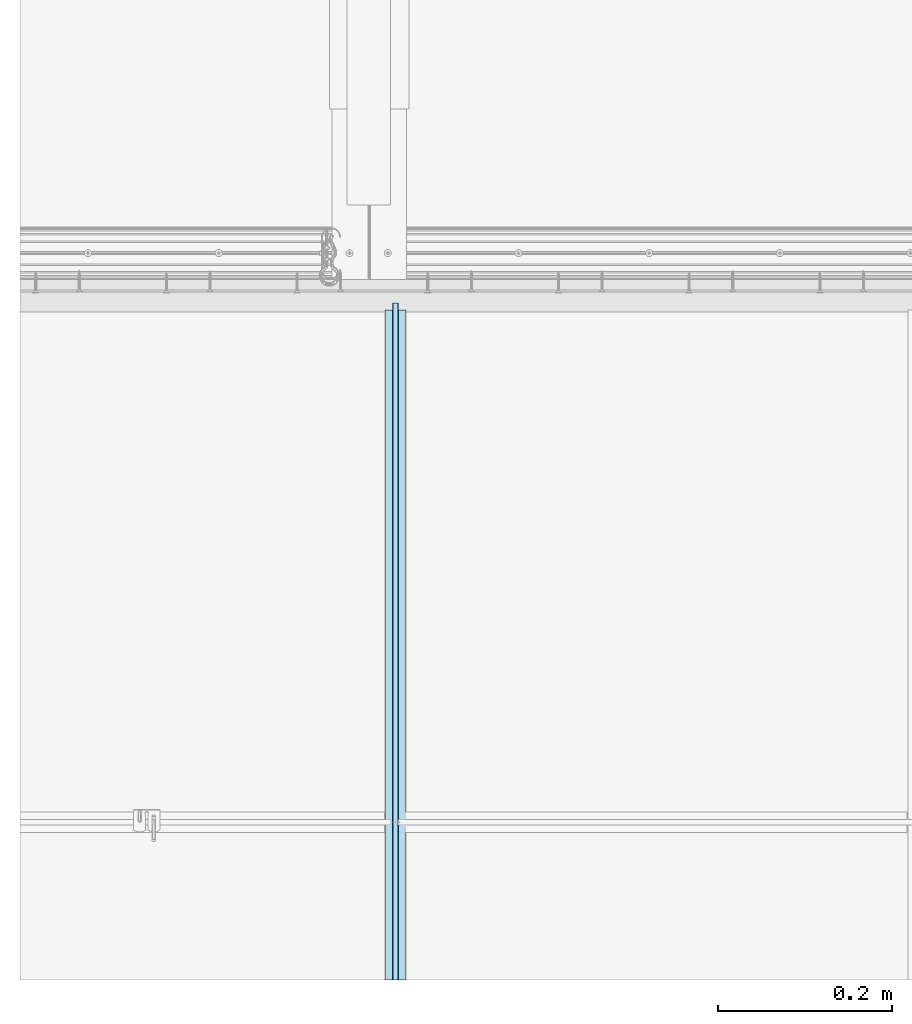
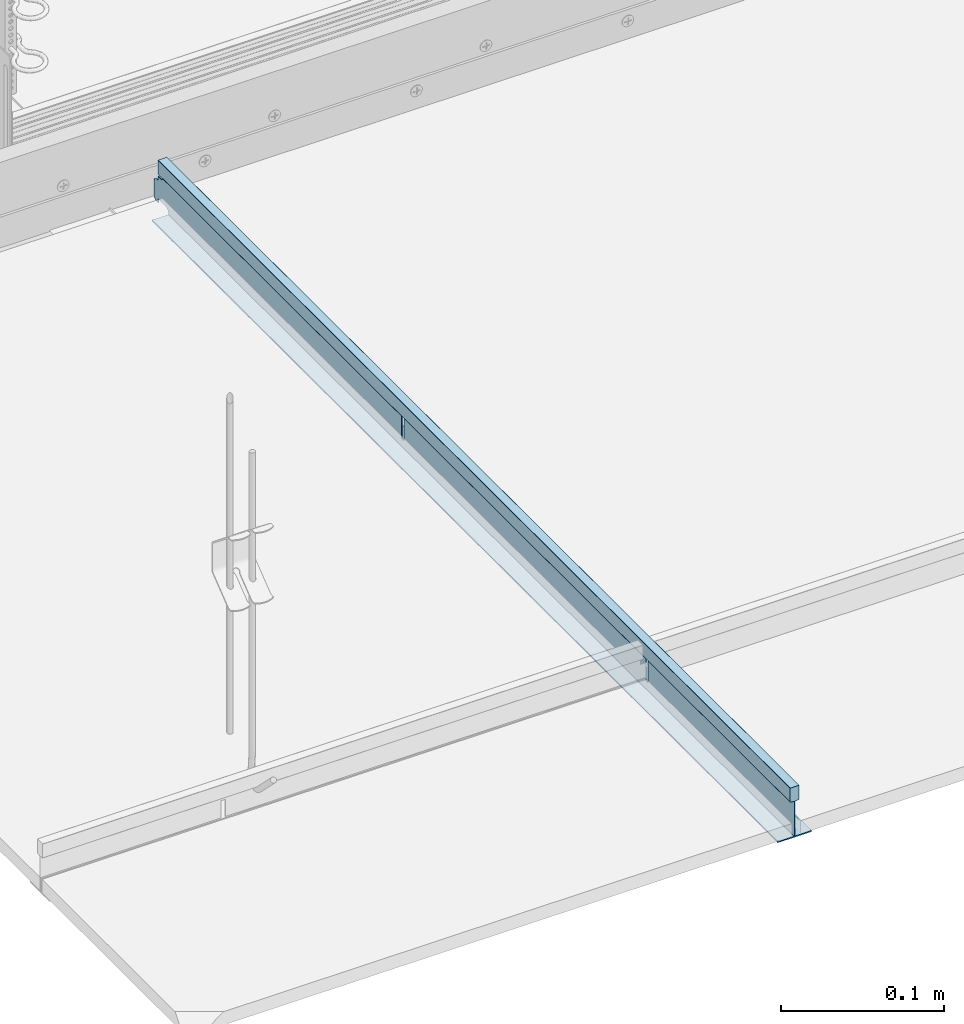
# One storey, part 6 of 79: 1 slab.
"""IFC2X3 building model written with IfcOpenShell, lengths in millimetres."""

from ifc_helpers import new_model, entity, si_unit, converted_unit, direction, frame, origin, origin_with_axes, place, context, project, spatial, faceted_brep, element, save


model = new_model("IFC2X3")

# Units and contexts
model_context = context("Model", 3, precision=1e-05, world=origin(), true_north=direction((0.0, 1.0, 0.0)))
ifc_project = project(units=[si_unit("LENGTHUNIT", "METRE", prefix="MILLI"), si_unit("AREAUNIT", "SQUARE_METRE"), si_unit("VOLUMEUNIT", "CUBIC_METRE"), converted_unit("PLANEANGLEUNIT", "DEGREE", entity("IfcPlaneAngleMeasure", 0.01745), si_unit("PLANEANGLEUNIT", "RADIAN"), dimensions=[0, 0, 0, 0, 0, 0, 0]), si_unit("SOLIDANGLEUNIT", "STERADIAN"), si_unit("MASSUNIT", "GRAM"), si_unit("TIMEUNIT", "SECOND"), si_unit("THERMODYNAMICTEMPERATUREUNIT", "DEGREE_CELSIUS"), si_unit("LUMINOUSINTENSITYUNIT", "LUMEN")], contexts=[model_context])

# Site, building, storey
site_placement = place(None, origin_with_axes())
site = spatial("IfcSite", under=ifc_project, at=site_placement, Name="Default Site", CompositionType="ELEMENT")
building_placement = place(site_placement, origin_with_axes())
building = spatial("IfcBuilding", under=site, at=building_placement, Name="Default Building", CompositionType="ELEMENT")
storey_placement = place(building_placement, origin_with_axes())
storey = spatial("IfcBuildingStorey", under=building, at=storey_placement, Name="Default Building Storey", CompositionType="ELEMENT", Elevation=0.0)

# Slab
slab_placement = place(storey_placement, frame((2544.035723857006, 837.6353148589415, 980.285217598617), z_axis=(0.0, 0.0, 1.0), x_axis=(1.0, 0.0, 0.0)))
element("IfcSlab", 1, at=slab_placement, inside=storey, Name="Profil poprzeczny RIGIPS T24", context=model_context, shape_type="Brep", body=[
    faceted_brep([(23.90000004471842, 769.2103810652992, 3.609557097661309e-13), (24.0000000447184, 769.2103810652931, 0.1000000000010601), (23.99510569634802, 769.2103810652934, 0.06909830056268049), (23.98090174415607, 769.2103810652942, 0.04122147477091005), (23.95877856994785, 769.2103810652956, 0.01909830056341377), (23.93090174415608, 769.2103810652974, 0.004894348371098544), (24.0000000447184, 769.2103810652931, 0.9000000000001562), (23.90000004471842, 769.2103810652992, 1.000000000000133), (23.93090174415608, 769.2103810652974, 0.9951056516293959), (23.95877856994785, 769.2103810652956, 0.9809016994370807), (23.98090174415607, 769.2103810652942, 0.9587785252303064), (23.99510569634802, 769.2103810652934, 0.930901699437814), (4.471844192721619e-08, 769.2103810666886, 0.1000000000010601), (0.1000000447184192, 769.2103810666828, 3.609557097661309e-13), (0.06909834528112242, 769.2103810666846, 0.004894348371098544), (0.04122151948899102, 769.2103810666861, 0.01909830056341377), (0.01909834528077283, 769.2103810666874, 0.04122147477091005), (0.004894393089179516, 769.2103810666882, 0.06909830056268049), (0.1000000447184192, 769.2103810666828, 1.000000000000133), (4.471844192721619e-08, 769.2103810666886, 0.9000000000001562), (0.004894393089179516, 769.2103810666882, 0.930901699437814), (0.01909834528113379, 769.2103810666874, 0.9587785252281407), (0.04122151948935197, 769.2103810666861, 0.9809016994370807), (0.06909834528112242, 769.2103810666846, 0.9951056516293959), (12.25000001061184, 182.5356075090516, 6.830574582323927), (12.25000001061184, 182.5356075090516, 23.83057458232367), (11.75000001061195, 182.5356075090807, 23.83057458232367), (11.75000001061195, 182.5356075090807, 6.830574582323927), (12.25000001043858, 179.5356075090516, 6.830574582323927), (11.75000001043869, 179.5356075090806, 6.830574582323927), (12.25000001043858, 179.5356075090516, 23.83057458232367), (11.75000001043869, 179.5356075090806, 23.83057458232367), (12.2500000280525, 482.5356075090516, 23.83057458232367), (12.25000002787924, 479.5356075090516, 23.83057458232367), (11.75000002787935, 479.5356075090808, 23.83057458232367), (11.75000002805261, 482.5356075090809, 23.83057458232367), (12.25000002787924, 479.5356075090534, 6.830574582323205), (11.75000002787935, 479.5356075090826, 6.830574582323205), (12.2500000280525, 482.5356075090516, 6.830574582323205), (11.75000002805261, 482.5356075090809, 6.830574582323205), (12.25000004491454, 772.5846432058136, 4.956101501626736), (11.75000004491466, 772.5846432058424, 4.956101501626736), (11.75000004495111, 773.2103810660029, 5.005348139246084), (12.250000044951, 773.210381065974, 5.005348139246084), (12.25000004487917, 771.9743130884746, 4.809574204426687), (11.75000004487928, 771.9743130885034, 4.809574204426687), (12.2500000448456, 771.3944190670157, 4.569374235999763), (11.75000004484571, 771.3944190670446, 4.569374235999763), (12.2500000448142, 770.8592400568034, 4.24141611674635), (11.75000004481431, 770.8592400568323, 4.24141611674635), (12.25000004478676, 770.3819539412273, 3.833775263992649), (11.75000004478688, 770.3819539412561, 3.833775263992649), (12.25000004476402, 769.9743130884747, 3.356489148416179), (11.75000004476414, 769.9743130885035, 3.356489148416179), (12.25000004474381, 769.6463549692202, 2.821310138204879), (11.75000004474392, 769.646354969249, 2.821310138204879), (12.25000004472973, 769.406155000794, 2.241416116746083), (11.75000004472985, 769.4061550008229, 2.241416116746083), (12.25000004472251, 769.2596277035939, 1.631085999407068), (11.75000004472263, 769.2596277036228, 1.631085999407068), (12.25000004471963, 769.2103810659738, 1.005348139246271), (11.75000004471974, 769.2103810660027, 1.005348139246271), (12.25000004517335, 777.0356075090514, 5.005348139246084), (12.25000004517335, 777.0356075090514, 4.83057458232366), (12.25000004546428, 782.0356075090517, 4.83057458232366), (12.25000004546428, 782.0356075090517, 1.830574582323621), (12.25000004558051, 784.0356075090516, 1.830574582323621), (12.25000004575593, 787.0356075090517, 3.830574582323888), (12.25000004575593, 787.0356075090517, 16.83057458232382), (12.25000004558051, 784.0356075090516, 18.83057458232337), (12.25000004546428, 782.0356075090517, 18.83057458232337), (12.25000004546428, 782.0356075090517, 21.8305745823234), (12.25000004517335, 777.0356075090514, 21.8305745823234), (12.2531831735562, 777.0356075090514, 26.83057458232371), (12.25216747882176, 595.5836991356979, 26.83060440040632), (12.25114981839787, 595.1491790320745, 26.83056726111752), (12.25217031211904, 594.9777323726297, 26.83063494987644), (12.25217203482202, 591.9068147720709, 26.8306476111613), (12.2531831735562, 0.0, 26.83057458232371), (12.25000000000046, 0.0, 0.8000000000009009), (12.25000004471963, 769.2103810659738, 0.800000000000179), (23.00000004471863, 769.2103810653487, 0.800000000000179), (23.00000004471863, 769.2103810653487, 0.5000000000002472), (1.000000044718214, 769.2103810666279, 0.5000000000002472), (1.000000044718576, 769.2103810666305, 0.800000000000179), (11.75000004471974, 769.2103810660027, 0.800000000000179), (11.75000004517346, 777.0356075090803, 5.005348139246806), (11.75000000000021, 0.0, 0.80000000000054), (11.75000000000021, 0.0, 6.830574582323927), (11.75000004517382, 777.0356075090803, 26.83057458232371), (11.75000004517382, 777.0356075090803, 21.8305745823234), (11.75000004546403, 782.0356075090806, 21.8305745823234), (11.75000004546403, 782.0356075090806, 18.83057458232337), (11.75000004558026, 784.0356075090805, 18.83057458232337), (11.75000004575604, 787.0356075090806, 16.83057458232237), (11.75000004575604, 787.0356075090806, 3.830574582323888), (11.75000004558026, 784.0356075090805, 1.830574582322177), (11.75000004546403, 782.0356075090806, 1.830574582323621), (11.75000004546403, 782.0356075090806, 4.83057458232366), (11.75000004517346, 777.0356075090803, 4.83057458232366), (1.000000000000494, 0.0, 0.5000000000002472), (1.000000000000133, 0.0, 0.80000000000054), (0.9999999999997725, 0.0, 1.000000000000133), (0.09999999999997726, 0.0, 1.000000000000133), (0.06909830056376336, 0.0, 0.995105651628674), (0.04122147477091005, 0.0, 0.9809016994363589), (0.01909830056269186, 0.0, 0.9587785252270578), (0.004894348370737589, 0.0, 0.9309016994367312), (3.609557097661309e-13, 0.0, 0.8999999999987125), (0.0, 0.0, 0.0999999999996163), (0.004894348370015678, 0.0, 0.06909830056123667), (0.01909830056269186, 0.0, 0.04122147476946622), (0.04122147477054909, 0.0, 0.01909830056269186), (0.06909830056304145, 0.0, 0.004894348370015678), (0.1000000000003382, 0.0, 0.0), (23.89999999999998, 0.0, 3.609557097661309e-13), (23.93090169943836, 0.0, 0.004894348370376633), (23.95877852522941, 0.0, 0.0190983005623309), (23.98090169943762, 0.0, 0.04122147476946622), (23.99510565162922, 0.0, 0.06909830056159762), (23.99999999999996, 0.0, 0.1000000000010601), (23.99999999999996, 0.0, 0.9000000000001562), (23.9951056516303, 0.0, 0.9309016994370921), (23.98090169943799, 0.0, 0.9587785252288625), (23.95877852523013, 0.0, 0.9809016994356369), (23.930901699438, 0.0, 0.995105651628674), (23.90000000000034, 0.0, 1.000000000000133), (23.00000000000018, 0.0, 1.000000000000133), (23.00000000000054, 0.0, 0.8000000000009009), (23.00000000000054, 0.0, 0.5000000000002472), (1.000000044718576, 769.2103810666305, 1.000000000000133), (23.00000004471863, 769.2103810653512, 1.000000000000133), (11.74999999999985, 0.0, 26.83057458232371), (12.2531831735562, 0.0, 26.85872058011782), (12.25197263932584, 777.0356075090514, 26.85859504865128), (12.26556593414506, 0.0, 26.90878863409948), (12.28078940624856, 0.0, 26.93719435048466), (12.29739600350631, 0.0, 26.95984956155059), (12.3170128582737, 0.0, 26.97995470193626), (12.33925300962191, 0.0, 26.99711317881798), (12.36367774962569, 0.0, 27.01098652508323), (12.38980527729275, 0.0, 27.02130107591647), (12.41712020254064, 0.0, 27.02785336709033), (15.08287979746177, 0.0, 27.47214663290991), (15.11019472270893, 0.0, 27.4786989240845), (15.13632225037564, 0.0, 27.48901347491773), (15.16074699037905, 0.0, 27.50288682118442), (15.18298714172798, 0.0, 27.52004529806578), (15.20260399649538, 0.0, 27.54015043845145), (15.21921059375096, 0.0, 27.56280564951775), (15.23247935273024, 0.0, 27.58756403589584), (15.24214853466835, 0.0, 27.61393721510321), (15.24802740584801, 0.0, 27.6414049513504), (15.25000000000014, 0.0, 27.66942541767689), (15.2500000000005, 0.0, 37.80000000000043), (15.24753766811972, 0.0, 37.83128689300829), (15.24021130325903, 0.0, 37.86180339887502), (15.22820130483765, 0.0, 37.89079809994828), (15.21180339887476, 0.0, 37.91755705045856), (15.1914213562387, 0.0, 37.94142135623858), (15.16755705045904, 0.0, 37.9618033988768), (15.14079809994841, 0.0, 37.97820130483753), (15.11180339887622, 0.0, 37.99021130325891), (15.08128689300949, 0.0, 37.9975376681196), (15.05000000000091, 0.0, 38.00000000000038), (8.950000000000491, 0.0, 38.00000000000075), (8.918713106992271, 0.0, 37.9975376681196), (8.888196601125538, 0.0, 37.99021130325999), (8.859201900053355, 0.0, 37.97820130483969), (8.832442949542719, 0.0, 37.96180339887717), (8.808578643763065, 0.0, 37.94142135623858), (8.78819660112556, 0.0, 37.91755705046), (8.771798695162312, 0.0, 37.89079809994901), (8.75978869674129, 0.0, 37.86180339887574), (8.752462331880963, 0.0, 37.83128689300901), (8.750000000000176, 0.0, 37.80000000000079), (8.749999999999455, 0.0, 27.66942541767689), (8.751972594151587, 0.0, 27.64140495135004), (8.757851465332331, 0.0, 27.61393721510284), (8.767520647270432, 0.0, 27.58756403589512), (8.78078940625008, 0.0, 27.56280564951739), (8.797396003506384, 0.0, 27.54015043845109), (8.817012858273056, 0.0, 27.52004529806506), (8.839253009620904, 0.0, 27.50288682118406), (8.86367774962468, 0.0, 27.48901347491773), (8.889805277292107, 0.0, 27.4786989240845), (8.91712020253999, 0.0, 27.47214663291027), (11.58287979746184, 0.0, 27.02785336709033), (11.61019472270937, 0.0, 27.0213010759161), (11.63632225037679, 0.0, 27.01098652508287), (11.66074699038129, 0.0, 26.99711317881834), (11.68298714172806, 0.0, 26.97995470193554), (11.70260399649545, 0.0, 26.95984956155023), (11.71921059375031, 0.0, 26.93719435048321), (11.7324793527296, 0.0, 26.91243596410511), (11.7421485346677, 0.0, 26.88606278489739), (11.74802740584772, 0.0, 26.85859504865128), (15.08287984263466, 777.0356075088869, 27.47214663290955), (15.25000004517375, 777.0356075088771, 27.66942541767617), (15.24802745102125, 777.0356075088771, 27.64140495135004), (15.24214857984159, 777.0356075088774, 27.61393721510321), (15.23247939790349, 777.0356075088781, 27.58756403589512), (15.21921063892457, 777.0356075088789, 27.56280564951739), (15.2026040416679, 777.0356075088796, 27.54015043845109), (15.18298718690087, 777.0356075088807, 27.52004529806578), (15.16074703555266, 777.0356075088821, 27.5028868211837), (15.13632229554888, 777.0356075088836, 27.48901347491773), (15.11019476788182, 777.035607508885, 27.4786989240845), (8.917120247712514, 777.0356075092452, 27.47214663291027), (8.750000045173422, 777.035607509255, 27.66942541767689), (12.4171202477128, 777.0356075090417, 27.02785336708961), (12.38980532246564, 777.0356075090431, 27.0213010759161), (12.36367779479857, 777.0356075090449, 27.01098652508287), (12.33925305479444, 777.035607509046, 26.99711317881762), (12.31701290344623, 777.0356075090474, 26.97995470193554), (12.29739604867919, 777.0356075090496, 26.95984956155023), (12.28078945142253, 777.0356075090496, 26.93719435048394), (12.2675206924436, 777.0356075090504, 26.9124359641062), (11.66074703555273, 777.0356075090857, 26.99711317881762), (11.6363222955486, 777.0356075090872, 27.01098652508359), (11.61019476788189, 777.0356075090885, 27.02130107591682), (11.58287984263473, 777.03560750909, 27.02785336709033), (8.889805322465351, 777.0356075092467, 27.4786989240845), (8.863677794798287, 777.0356075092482, 27.48901347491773), (8.83925305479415, 777.0356075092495, 27.5028868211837), (8.817012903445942, 777.035607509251, 27.52004529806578), (8.797396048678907, 777.0356075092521, 27.54015043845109), (8.780789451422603, 777.0356075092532, 27.56280564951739), (8.767520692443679, 777.035607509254, 27.58756403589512), (8.757851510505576, 777.0356075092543, 27.61393721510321), (8.751972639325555, 777.0356075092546, 27.64140495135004), (11.70260404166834, 777.0356075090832, 26.95984956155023), (11.68298718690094, 777.0356075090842, 26.97995470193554), (12.2578515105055, 777.035607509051, 26.88606278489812), (12.25282061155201, 557.6175692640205, 26.85860023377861), (12.26508841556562, 743.9273872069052, 26.91267923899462), (12.25819111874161, 411.4434548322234, 26.88602829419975), (15.2475377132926, 777.0356075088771, 37.83128689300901), (15.25000004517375, 777.0356075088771, 37.79999999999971), (15.24021134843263, 777.0356075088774, 37.86180339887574), (8.77179874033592, 777.0356075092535, 37.89079809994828), (8.788196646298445, 777.0356075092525, 37.91755705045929), (15.11180344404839, 777.035607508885, 37.99021130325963), (15.14079814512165, 777.0356075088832, 37.97820130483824), (8.832442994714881, 777.03560750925, 37.96180339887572), (8.859201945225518, 777.0356075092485, 37.97820130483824), (15.16755709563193, 777.0356075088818, 37.96180339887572), (8.750000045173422, 777.035607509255, 37.80000000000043), (8.75246237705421, 777.0356075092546, 37.83128689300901), (8.950000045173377, 777.035607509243, 38.00000000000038), (15.05000004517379, 777.0356075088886, 37.99999999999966), (15.19142140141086, 777.0356075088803, 37.94142135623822), (15.21180344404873, 777.0356075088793, 37.91755705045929), (8.759788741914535, 777.0356075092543, 37.86180339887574), (11.71921063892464, 777.0356075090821, 26.93719435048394), (11.73247939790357, 777.0356075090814, 26.9124359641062), (11.74802745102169, 777.0356075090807, 26.85859504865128), (11.74214857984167, 777.035607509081, 26.88606278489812), (15.22820135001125, 777.0356075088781, 37.89079809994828), (8.80857868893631, 777.0356075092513, 37.94142135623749), (8.918713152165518, 777.0356075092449, 37.9975376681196), (8.888196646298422, 777.0356075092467, 37.99021130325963), (15.08128693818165, 777.0356075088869, 37.9975376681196)], [[[0, 1, 2, 3, 4, 5]], [[6, 7, 8, 9, 10, 11]], [[12, 13, 14, 15, 16, 17]], [[18, 19, 20, 21, 22, 23]], [[24, 25, 26, 27]], [[28, 24, 27, 29]], [[30, 28, 29, 31]], [[25, 30, 31, 26]], [[32, 33, 34, 35]], [[33, 36, 37, 34]], [[36, 38, 39, 37]], [[38, 32, 35, 39]], [[40, 41, 42, 43]], [[41, 40, 44, 45]], [[45, 44, 46, 47]], [[47, 46, 48, 49]], [[49, 48, 50, 51]], [[51, 50, 52, 53]], [[53, 52, 54, 55]], [[55, 54, 56, 57]], [[57, 56, 58, 59]], [[59, 58, 60, 61]], [[40, 43, 62, 63, 64, 65, 66, 67, 68, 69, 70, 71, 72, 73, 74, 75, 76, 77, 78, 79, 80, 60, 58, 56, 54, 52, 50, 48, 46, 44], [33, 32, 38, 36], [25, 24, 28, 30]], [[60, 80, 81, 82, 83, 84, 85, 61]], [[62, 43, 42, 86]], [[85, 87, 88, 29, 27, 26, 34, 37, 39, 35, 89, 90, 91, 92, 93, 94, 95, 96, 97, 98, 99, 86, 42, 41, 45, 47, 49, 51, 53, 55, 57, 59, 61]], [[100, 101, 102, 103, 104, 105, 106, 107, 108, 109, 110, 111, 112, 113, 114, 115, 116, 117, 118, 119, 120, 121, 122, 123, 124, 125, 126, 127, 128, 129]], [[13, 114, 113, 14]], [[18, 130, 84, 83, 82, 81, 131, 7, 6, 1, 0, 13, 12, 19]], [[5, 116, 115, 0]], [[63, 62, 86, 99]], [[64, 63, 99, 98]], [[65, 64, 98, 97]], [[72, 71, 91, 90]], [[71, 70, 92, 91]], [[70, 69, 93, 92]], [[69, 68, 94, 93]], [[68, 67, 95, 94]], [[67, 66, 96, 95]], [[66, 65, 97, 96]], [[80, 79, 128, 81]], [[79, 78, 132, 88, 87, 101, 100, 129, 128]], [[89, 73, 74, 75, 76, 77, 78, 132]], [[90, 89, 73, 72]], [[78, 77, 133]], [[74, 73, 134]], [[78, 133, 135, 136, 137, 138, 139, 140, 141, 142, 143, 144, 145, 146, 147, 148, 149, 150, 151, 152, 153, 154, 155, 156, 157, 158, 159, 160, 161, 162, 163, 164, 165, 166, 167, 168, 169, 170, 171, 172, 173, 174, 175, 176, 177, 178, 179, 180, 181, 182, 183, 184, 185, 186, 187, 188, 189, 190, 191, 192, 193, 194, 195, 196, 132]], [[197, 198, 199, 200, 201, 202, 203, 204, 205, 206, 207]], [[208, 209, 198, 197, 210, 211, 212, 213, 214, 215, 216, 217, 218, 219, 220, 221]], [[209, 208, 222, 223, 224, 225, 226, 227, 228, 229, 230]], [[231, 232, 218, 233]], [[136, 216, 215, 137]], [[234, 133, 77]], [[235, 136, 135]], [[217, 235, 233]], [[233, 235, 236]], [[134, 234, 77, 76, 75, 74]], [[235, 216, 215, 137, 136]], [[135, 236, 235]], [[217, 216, 235]], [[237, 155, 154, 238]], [[239, 156, 155, 237]], [[240, 172, 171, 241]], [[198, 153, 152, 199]], [[242, 162, 161, 243]], [[199, 152, 151, 200]], [[203, 148, 147, 204]], [[202, 149, 148, 203]], [[222, 185, 184, 223]], [[229, 178, 177, 230]], [[244, 169, 168, 245]], [[218, 190, 189, 219]], [[204, 147, 146, 205]], [[210, 142, 141, 211]], [[214, 138, 137, 215]], [[206, 145, 144, 207]], [[243, 161, 160, 246]], [[247, 175, 174, 248]], [[249, 165, 164, 250]], [[251, 159, 158, 252]], [[227, 180, 179, 228]], [[219, 189, 188, 220]], [[253, 173, 172, 240]], [[224, 183, 182, 225]], [[225, 182, 181, 226]], [[226, 181, 180, 227]], [[254, 193, 192, 231]], [[255, 194, 193, 254]], [[248, 174, 173, 253]], [[212, 140, 139, 213]], [[89, 132, 196, 256]], [[256, 196, 195, 257]], [[213, 139, 138, 214]], [[252, 158, 157, 258]], [[241, 171, 170, 259]], [[230, 177, 176, 209]], [[231, 192, 191, 232]], [[260, 166, 165, 249]], [[208, 186, 185, 222]], [[261, 167, 166, 260]], [[200, 151, 150, 201]], [[201, 150, 149, 202]], [[258, 157, 156, 239]], [[223, 184, 183, 224]], [[232, 191, 190, 218]], [[246, 160, 159, 251]], [[228, 179, 178, 229]], [[211, 141, 140, 212]], [[245, 168, 167, 261]], [[250, 164, 163, 262]], [[257, 195, 194, 255]], [[235, 135, 236, 233, 217]], [[135, 133, 234, 134, 233, 236]], [[238, 198, 209, 247, 249, 250]], [[205, 146, 145, 206]], [[197, 143, 142, 210]], [[134, 73, 89, 256, 257, 255, 254, 231, 233]], [[217, 233, 218]], [[209, 176, 175, 247]], [[262, 163, 162, 242]], [[259, 170, 169, 244]], [[207, 144, 143, 197]], [[220, 188, 187, 221]], [[84, 101, 87, 85]], [[29, 88, 132, 89, 35, 34, 26, 31]], [[221, 187, 186, 208]], [[238, 154, 153, 198]], [[21, 106, 105, 22]], [[8, 125, 124, 9]], [[14, 113, 112, 15]], [[20, 107, 106, 21]], [[9, 124, 123, 10]], [[13, 0, 115, 114]], [[15, 112, 111, 16]], [[16, 111, 110, 17]], [[7, 126, 125, 8]], [[1, 120, 119, 2]], [[19, 108, 107, 20]], [[18, 103, 102, 130]], [[131, 127, 126, 7]], [[10, 123, 122, 11]], [[84, 83, 100, 101]], [[3, 118, 117, 4]], [[4, 117, 116, 5]], [[11, 122, 121, 6]], [[2, 119, 118, 3]], [[6, 121, 120, 1]], [[23, 104, 103, 18]], [[129, 82, 81, 128]], [[12, 109, 108, 19]], [[22, 105, 104, 23]], [[17, 110, 109, 12]], [[100, 83, 82, 129]]]),
])

save(model, "model.ifc")
